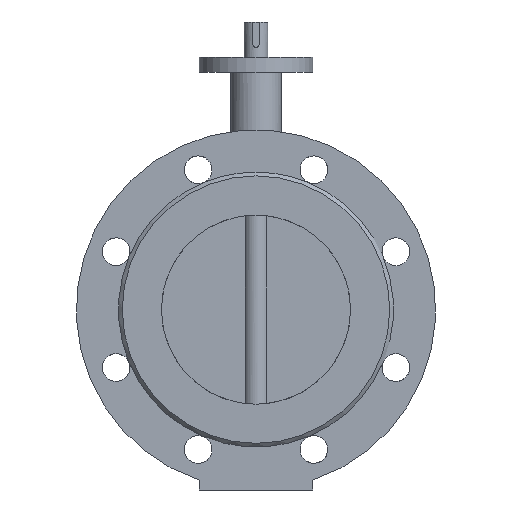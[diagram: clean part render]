
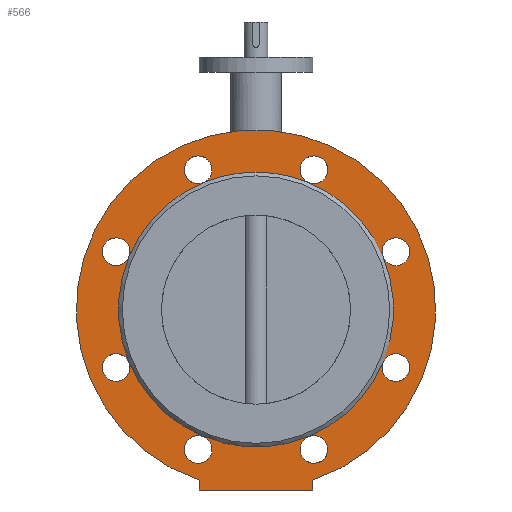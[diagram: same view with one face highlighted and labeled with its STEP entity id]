
A CAD part, front view. The second image highlights one B-rep face of the part: STEP entity #566.
In plain terms, the highlighted planar face has unit normal (0, -1, 0).
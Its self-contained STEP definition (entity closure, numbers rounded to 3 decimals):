
#566=ADVANCED_FACE('',(#1264,#1266,#1268,#1270,#1272,#1274,#1276,#1278,#1280,#1282),
#1284,.T.);
#1264=FACE_BOUND('',#1265,.T.);
#1265=EDGE_LOOP('',(#1752,#1753,#1754,#1755));
#1266=FACE_BOUND('',#1267,.T.);
#1267=EDGE_LOOP('',(#1756,#1757));
#1268=FACE_BOUND('',#1269,.T.);
#1269=EDGE_LOOP('',(#1758));
#1270=FACE_BOUND('',#1271,.T.);
#1271=EDGE_LOOP('',(#1759));
#1272=FACE_BOUND('',#1273,.T.);
#1273=EDGE_LOOP('',(#1760));
#1274=FACE_BOUND('',#1275,.T.);
#1275=EDGE_LOOP('',(#1761,#1762,#1763,#1764,#1765));
#1276=FACE_BOUND('',#1277,.T.);
#1277=EDGE_LOOP('',(#1766));
#1278=FACE_BOUND('',#1279,.T.);
#1279=EDGE_LOOP('',(#1767,#1768));
#1280=FACE_BOUND('',#1281,.T.);
#1281=EDGE_LOOP('',(#1769,#1770));
#1282=FACE_BOUND('',#1283,.T.);
#1283=EDGE_LOOP('',(#1771,#1772));
#1284=PLANE('',#1285);
#1285=AXIS2_PLACEMENT_3D('',#1286,#1287,#1288);
#1286=CARTESIAN_POINT('',(0.,-67.,0.));
#1287=DIRECTION('',(0.,-1.,0.));
#1288=DIRECTION('',(0.,0.,1.));
#1752=ORIENTED_EDGE('',*,*,#1987,.T.);
#1753=ORIENTED_EDGE('',*,*,#1985,.F.);
#1754=ORIENTED_EDGE('',*,*,#1983,.F.);
#1755=ORIENTED_EDGE('',*,*,#1982,.F.);
#1756=ORIENTED_EDGE('',*,*,#1998,.T.);
#1757=ORIENTED_EDGE('',*,*,#1997,.T.);
#1758=ORIENTED_EDGE('',*,*,#2001,.T.);
#1759=ORIENTED_EDGE('',*,*,#1990,.T.);
#1760=ORIENTED_EDGE('',*,*,#2000,.T.);
#1761=ORIENTED_EDGE('',*,*,#2027,.T.);
#1762=ORIENTED_EDGE('',*,*,#2028,.T.);
#1763=ORIENTED_EDGE('',*,*,#2029,.T.);
#1764=ORIENTED_EDGE('',*,*,#2030,.T.);
#1765=ORIENTED_EDGE('',*,*,#2031,.T.);
#1766=ORIENTED_EDGE('',*,*,#1999,.T.);
#1767=ORIENTED_EDGE('',*,*,#1991,.T.);
#1768=ORIENTED_EDGE('',*,*,#1992,.T.);
#1769=ORIENTED_EDGE('',*,*,#1993,.T.);
#1770=ORIENTED_EDGE('',*,*,#1994,.T.);
#1771=ORIENTED_EDGE('',*,*,#1996,.T.);
#1772=ORIENTED_EDGE('',*,*,#1995,.T.);
#1982=EDGE_CURVE('',#2257,#2255,#2259,.T.);
#1983=EDGE_CURVE('',#2255,#2260,#2261,.T.);
#1985=EDGE_CURVE('',#2260,#2263,#2264,.T.);
#1987=EDGE_CURVE('',#2257,#2263,#2266,.T.);
#1990=EDGE_CURVE('',#2269,#2269,#2270,.F.);
#1991=EDGE_CURVE('',#2271,#2272,#2273,.F.);
#1992=EDGE_CURVE('',#2272,#2271,#2274,.F.);
#1993=EDGE_CURVE('',#2275,#2276,#2277,.F.);
#1994=EDGE_CURVE('',#2276,#2275,#2278,.F.);
#1995=EDGE_CURVE('',#2279,#2280,#2281,.F.);
#1996=EDGE_CURVE('',#2280,#2279,#2282,.F.);
#1997=EDGE_CURVE('',#2283,#2284,#2285,.F.);
#1998=EDGE_CURVE('',#2284,#2283,#2286,.F.);
#1999=EDGE_CURVE('',#2287,#2287,#2288,.F.);
#2000=EDGE_CURVE('',#2289,#2289,#2290,.F.);
#2001=EDGE_CURVE('',#2291,#2291,#2292,.F.);
#2027=EDGE_CURVE('',#2284,#2339,#2340,.T.);
#2028=EDGE_CURVE('',#2339,#2271,#2341,.T.);
#2029=EDGE_CURVE('',#2271,#2275,#2342,.T.);
#2030=EDGE_CURVE('',#2275,#2280,#2343,.T.);
#2031=EDGE_CURVE('',#2280,#2284,#2344,.T.);
#2255=VERTEX_POINT('',#3189);
#2257=VERTEX_POINT('',#3193);
#2259=CIRCLE('',#3197,142.5);
#2260=VERTEX_POINT('',#3201);
#2261=LINE('',#3202,#3203);
#2263=VERTEX_POINT('',#3208);
#2264=LINE('',#3209,#3210);
#2266=LINE('',#3215,#3216);
#2269=VERTEX_POINT('',#3224);
#2270=CIRCLE('',#3225,11.);
#2271=VERTEX_POINT('',#3229);
#2272=VERTEX_POINT('',#3230);
#2273=CIRCLE('',#3231,11.);
#2274=CIRCLE('',#3235,11.);
#2275=VERTEX_POINT('',#3239);
#2276=VERTEX_POINT('',#3240);
#2277=CIRCLE('',#3241,11.);
#2278=CIRCLE('',#3245,11.);
#2279=VERTEX_POINT('',#3249);
#2280=VERTEX_POINT('',#3250);
#2281=CIRCLE('',#3251,11.);
#2282=CIRCLE('',#3255,11.);
#2283=VERTEX_POINT('',#3259);
#2284=VERTEX_POINT('',#3260);
#2285=CIRCLE('',#3261,11.);
#2286=CIRCLE('',#3265,11.);
#2287=VERTEX_POINT('',#3269);
#2288=CIRCLE('',#3270,11.);
#2289=VERTEX_POINT('',#3274);
#2290=CIRCLE('',#3275,11.);
#2291=VERTEX_POINT('',#3279);
#2292=CIRCLE('',#3280,11.);
#2339=VERTEX_POINT('',#3398);
#2340=CIRCLE('',#3399,109.);
#2341=CIRCLE('',#3403,109.);
#2342=CIRCLE('',#3407,109.);
#2343=CIRCLE('',#3411,109.);
#2344=CIRCLE('',#3415,109.);
#3189=CARTESIAN_POINT('',(45.,-67.,-135.208));
#3193=CARTESIAN_POINT('',(-45.,-67.,-135.208));
#3197=AXIS2_PLACEMENT_3D('',#3198,#3199,#3200);
#3198=CARTESIAN_POINT('',(0.,-67.,0.));
#3199=DIRECTION('',(0.,1.,0.));
#3200=DIRECTION('',(-0.316,0.,-0.949));
#3201=CARTESIAN_POINT('',(45.,-67.,-143.));
#3202=CARTESIAN_POINT('',(45.,-67.,-135.208));
#3203=VECTOR('',#3204,1.);
#3204=DIRECTION('',(0.,0.,-1.));
#3208=CARTESIAN_POINT('',(-45.,-67.,-143.));
#3209=CARTESIAN_POINT('',(45.,-67.,-143.));
#3210=VECTOR('',#3211,1.);
#3211=DIRECTION('',(-1.,0.,0.));
#3215=CARTESIAN_POINT('',(-45.,-67.,-135.208));
#3216=VECTOR('',#3217,1.);
#3217=DIRECTION('',(0.,0.,-1.));
#3224=CARTESIAN_POINT('',(53.7,-67.,103.087));
#3225=AXIS2_PLACEMENT_3D('',#3226,#3227,#3228);
#3226=CARTESIAN_POINT('',(45.922,-67.,110.866));
#3227=DIRECTION('',(0.,-1.,0.));
#3228=DIRECTION('',(0.707,0.,-0.707));
#3229=CARTESIAN_POINT('',(100.703,-67.,41.712));
#3230=CARTESIAN_POINT('',(110.866,-67.,34.922));
#3231=AXIS2_PLACEMENT_3D('',#3232,#3233,#3234);
#3232=CARTESIAN_POINT('',(110.866,-67.,45.922));
#3233=DIRECTION('',(0.,-1.,0.));
#3234=DIRECTION('',(0.,0.,-1.));
#3235=AXIS2_PLACEMENT_3D('',#3236,#3237,#3238);
#3236=CARTESIAN_POINT('',(110.866,-67.,45.922));
#3237=DIRECTION('',(0.,-1.,0.));
#3238=DIRECTION('',(-0.924,0.,-0.383));
#3239=CARTESIAN_POINT('',(100.703,-67.,-41.712));
#3240=CARTESIAN_POINT('',(103.087,-67.,-53.7));
#3241=AXIS2_PLACEMENT_3D('',#3242,#3243,#3244);
#3242=CARTESIAN_POINT('',(110.866,-67.,-45.922));
#3243=DIRECTION('',(0.,-1.,0.));
#3244=DIRECTION('',(-0.707,0.,-0.707));
#3245=AXIS2_PLACEMENT_3D('',#3246,#3247,#3248);
#3246=CARTESIAN_POINT('',(110.866,-67.,-45.922));
#3247=DIRECTION('',(0.,-1.,0.));
#3248=DIRECTION('',(-0.924,0.,0.383));
#3249=CARTESIAN_POINT('',(34.922,-67.,-110.866));
#3250=CARTESIAN_POINT('',(41.712,-67.,-100.703));
#3251=AXIS2_PLACEMENT_3D('',#3252,#3253,#3254);
#3252=CARTESIAN_POINT('',(45.922,-67.,-110.866));
#3253=DIRECTION('',(0.,-1.,0.));
#3254=DIRECTION('',(-0.383,0.,0.924));
#3255=AXIS2_PLACEMENT_3D('',#3256,#3257,#3258);
#3256=CARTESIAN_POINT('',(45.922,-67.,-110.866));
#3257=DIRECTION('',(0.,-1.,0.));
#3258=DIRECTION('',(-1.,0.,0.));
#3259=CARTESIAN_POINT('',(-53.7,-67.,-103.087));
#3260=CARTESIAN_POINT('',(-41.712,-67.,-100.703));
#3261=AXIS2_PLACEMENT_3D('',#3262,#3263,#3264);
#3262=CARTESIAN_POINT('',(-45.922,-67.,-110.866));
#3263=DIRECTION('',(0.,-1.,0.));
#3264=DIRECTION('',(0.383,0.,0.924));
#3265=AXIS2_PLACEMENT_3D('',#3266,#3267,#3268);
#3266=CARTESIAN_POINT('',(-45.922,-67.,-110.866));
#3267=DIRECTION('',(0.,-1.,0.));
#3268=DIRECTION('',(-0.707,0.,0.707));
#3269=CARTESIAN_POINT('',(-110.866,-67.,-34.922));
#3270=AXIS2_PLACEMENT_3D('',#3271,#3272,#3273);
#3271=CARTESIAN_POINT('',(-110.866,-67.,-45.922));
#3272=DIRECTION('',(0.,-1.,0.));
#3273=DIRECTION('',(0.,0.,1.));
#3274=CARTESIAN_POINT('',(-103.087,-67.,53.7));
#3275=AXIS2_PLACEMENT_3D('',#3276,#3277,#3278);
#3276=CARTESIAN_POINT('',(-110.866,-67.,45.922));
#3277=DIRECTION('',(0.,-1.,0.));
#3278=DIRECTION('',(0.707,0.,0.707));
#3279=CARTESIAN_POINT('',(-34.922,-67.,110.866));
#3280=AXIS2_PLACEMENT_3D('',#3281,#3282,#3283);
#3281=CARTESIAN_POINT('',(-45.922,-67.,110.866));
#3282=DIRECTION('',(0.,-1.,0.));
#3283=DIRECTION('',(1.,0.,0.));
#3398=CARTESIAN_POINT('',(0.,-67.,109.));
#3399=AXIS2_PLACEMENT_3D('',#3400,#3401,#3402);
#3400=CARTESIAN_POINT('',(0.,-67.,0.));
#3401=DIRECTION('',(0.,1.,0.));
#3402=DIRECTION('',(-0.383,0.,-0.924));
#3403=AXIS2_PLACEMENT_3D('',#3404,#3405,#3406);
#3404=CARTESIAN_POINT('',(0.,-67.,0.));
#3405=DIRECTION('',(0.,1.,0.));
#3406=DIRECTION('',(0.,0.,1.));
#3407=AXIS2_PLACEMENT_3D('',#3408,#3409,#3410);
#3408=CARTESIAN_POINT('',(0.,-67.,0.));
#3409=DIRECTION('',(0.,1.,0.));
#3410=DIRECTION('',(0.924,0.,0.383));
#3411=AXIS2_PLACEMENT_3D('',#3412,#3413,#3414);
#3412=CARTESIAN_POINT('',(0.,-67.,0.));
#3413=DIRECTION('',(0.,1.,0.));
#3414=DIRECTION('',(0.924,0.,-0.383));
#3415=AXIS2_PLACEMENT_3D('',#3416,#3417,#3418);
#3416=CARTESIAN_POINT('',(0.,-67.,0.));
#3417=DIRECTION('',(0.,1.,0.));
#3418=DIRECTION('',(0.383,0.,-0.924));
